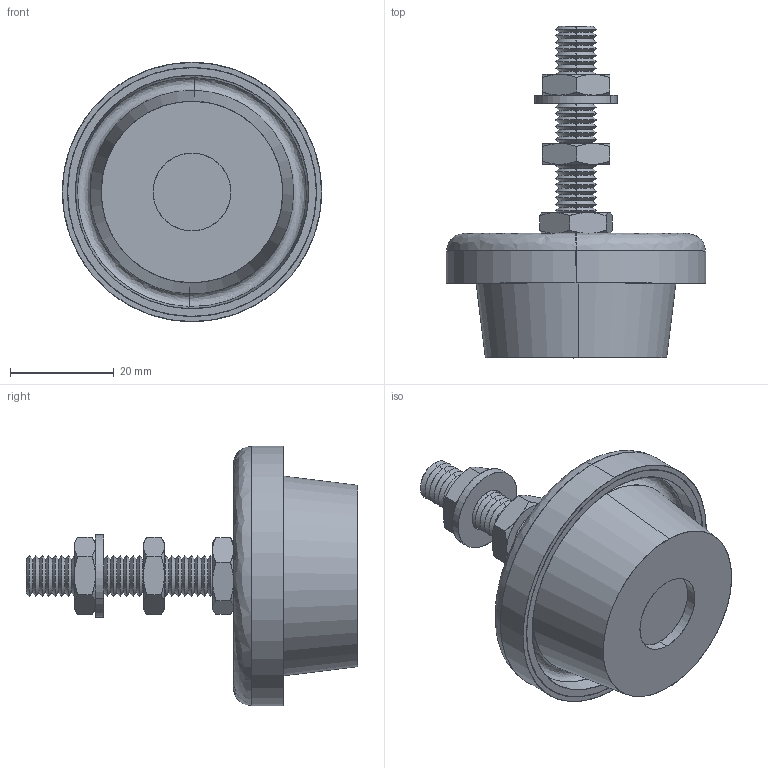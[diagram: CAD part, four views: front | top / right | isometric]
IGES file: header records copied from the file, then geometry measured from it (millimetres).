
Start section: SolidWorks IGES file using analytic representation for surfaces
Global section: file name: C:\Documents and Settings\IANO\Desktop\Temp File\Process pending\EXISTING\34940_v2\34940_v2_20170627_IGES\34940.W0050.igs; native system: SolidWorks 2009; preprocessor: SolidWorks 2009; author: IANO; date: 170626.132407; units: millimetre
Bounding box: 50 x 64 x 50 mm (x, y, z)
Surface area: 22386.5 mm2 (no closed solid volume)
Topology: 0 solids, 0 shells, 314 faces, 3096 edges, 3096 vertices
Faces by surface type: revolution 250, bspline 64
